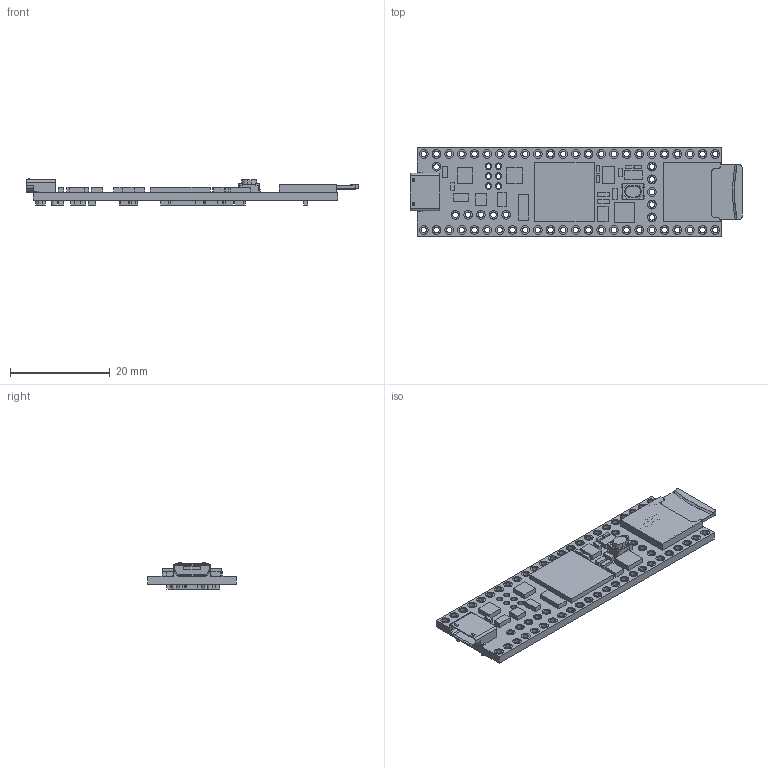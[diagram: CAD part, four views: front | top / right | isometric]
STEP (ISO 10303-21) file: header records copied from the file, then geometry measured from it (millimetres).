
FILE_DESCRIPTION (( 'STEP AP203' ), '1' );
FILE_NAME ('Teensy_4.1_Assembly_R1.STEP', '2023-08-02T16:48:39', ( '' ), ( '' ), 'SwSTEP 2.0', 'SolidWorks 2022', '' );
FILE_SCHEMA (( 'CONFIG_CONTROL_DESIGN' ));
Products named in the file (1): Teensy_4.1_Assembly_R1
Bounding box: 66.56 x 17.78 x 5.27 mm (x, y, z)
Volume: 2249.9 mm3; surface area: 3978.5 mm2
Topology: 2 solids, 4 shells, 3814 faces, 9901 edges, 6588 vertices
Faces by surface type: plane 2092, bspline 1169, cylinder 542, cone 8, torus 3
Entity records: 183498 total; most frequent: CARTESIAN_POINT 96725, ORIENTED_EDGE 19802, DIRECTION 13857, EDGE_CURVE 9901, VERTEX_POINT 6588, LINE 6441, VECTOR 6441, EDGE_LOOP 4437
